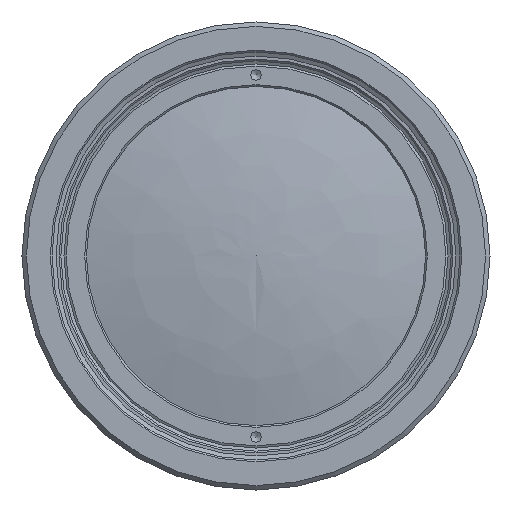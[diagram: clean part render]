
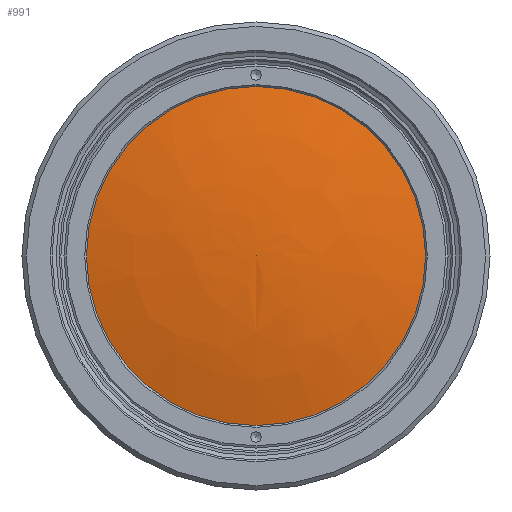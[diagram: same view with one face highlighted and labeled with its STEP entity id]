
A CAD part, front view. The second image highlights one B-rep face of the part: STEP entity #991.
In plain terms, the highlighted face is a revolution surface.
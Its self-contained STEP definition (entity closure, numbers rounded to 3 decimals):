
#724=SURFACE_OF_REVOLUTION('',#818,#726);
#726=AXIS1_PLACEMENT('',#3642,#2559);
#818=B_SPLINE_CURVE_WITH_KNOTS('',3,(#3638,#3639,#3640,#3641),.UNSPECIFIED.,
.F.,.F.,(4,4),(0.,1.),.UNSPECIFIED.);
#824=VERTEX_LOOP('',#1766);
#991=ADVANCED_FACE('',(#1088,#1194),#724,.F.);
#1088=FACE_OUTER_BOUND('',#1364,.T.);
#1194=FACE_BOUND('',#824,.T.);
#1364=EDGE_LOOP('',(#1644));
#1644=ORIENTED_EDGE('',*,*,#1789,.T.);
#1667=VERTEX_POINT('',#2626);
#1766=VERTEX_POINT('',#3637);
#1789=EDGE_CURVE('',#1667,#1667,#1929,.T.);
#1929=CIRCLE('',#2032,19.4);
#2032=AXIS2_PLACEMENT_3D('',#2625,#2254,#2255);
#2254=DIRECTION('',(0.,-1.,0.));
#2255=DIRECTION('',(0.,0.,-1.));
#2559=DIRECTION('',(0.,-1.,0.));
#2625=CARTESIAN_POINT('',(0.,2.344,0.));
#2626=CARTESIAN_POINT('',(0.,2.344,-19.4));
#3637=CARTESIAN_POINT('',(0.,0.,0.));
#3638=CARTESIAN_POINT('',(0.,0.,0.));
#3639=CARTESIAN_POINT('',(0.,0.,-6.467));
#3640=CARTESIAN_POINT('',(0.,0.757,-12.933));
#3641=CARTESIAN_POINT('',(0.,2.344,-19.4));
#3642=CARTESIAN_POINT('',(0.,0.,0.));
